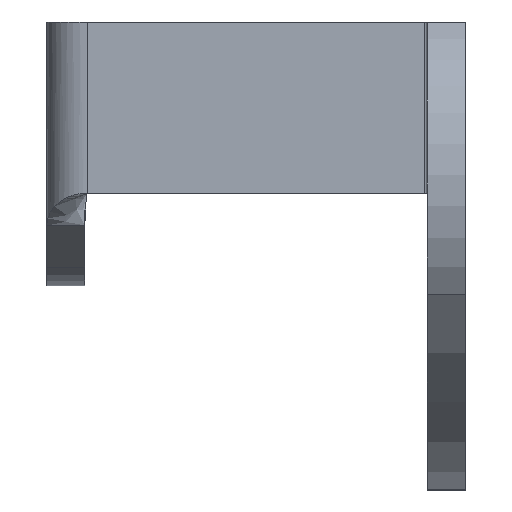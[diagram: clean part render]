
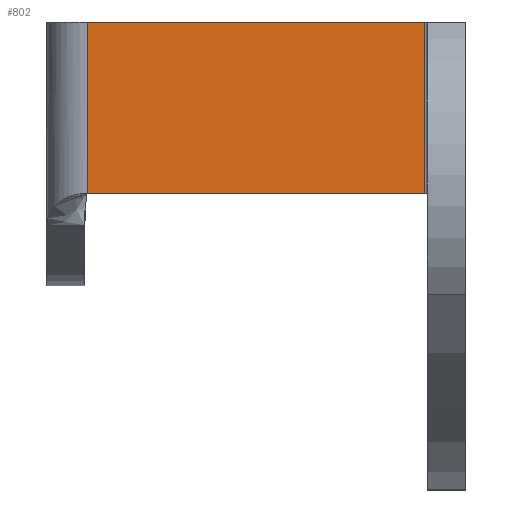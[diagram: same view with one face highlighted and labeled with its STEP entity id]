
A CAD part, left-side view. The second image highlights one B-rep face of the part: STEP entity #802.
In plain terms, the highlighted planar face has unit normal (-1, 0, 0).
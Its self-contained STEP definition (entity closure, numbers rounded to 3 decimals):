
#27 = VERTEX_POINT ( 'NONE', #809 ) ;
#49 = EDGE_CURVE ( 'NONE', #751, #866, #685, .T. ) ;
#70 = ORIENTED_EDGE ( 'NONE', *, *, #615, .T. ) ;
#111 = VECTOR ( 'NONE', #613, 1000. ) ;
#112 = LINE ( 'NONE', #233, #111 ) ;
#133 = AXIS2_PLACEMENT_3D ( 'NONE', #1016, #136, #407 ) ;
#136 = DIRECTION ( 'NONE',  ( 1., 0., 0. ) ) ;
#202 = FACE_OUTER_BOUND ( 'NONE', #925, .T. ) ;
#205 = VECTOR ( 'NONE', #697, 1000. ) ;
#206 = LINE ( 'NONE', #584, #205 ) ;
#209 = CARTESIAN_POINT ( 'NONE',  ( -25.5, -0.25, 12. ) ) ;
#233 = CARTESIAN_POINT ( 'NONE',  ( -25.5, -40., 12. ) ) ;
#294 = VECTOR ( 'NONE', #597, 1000. ) ;
#312 = LINE ( 'NONE', #570, #294 ) ;
#407 = DIRECTION ( 'NONE',  ( 0., 1., 0. ) ) ;
#428 = VERTEX_POINT ( 'NONE', #209 ) ;
#570 = CARTESIAN_POINT ( 'NONE',  ( -25.5, -0.25, 30. ) ) ;
#584 = CARTESIAN_POINT ( 'NONE',  ( -25.5, -35.75, 30. ) ) ;
#588 = DIRECTION ( 'NONE',  ( 0., -1., 0. ) ) ;
#597 = DIRECTION ( 'NONE',  ( 0., 0., -1. ) ) ;
#613 = DIRECTION ( 'NONE',  ( 0., 1., 0. ) ) ;
#615 = EDGE_CURVE ( 'NONE', #751, #428, #312, .T. ) ;
#673 = VECTOR ( 'NONE', #588, 1000. ) ;
#685 = LINE ( 'NONE', #1031, #673 ) ;
#697 = DIRECTION ( 'NONE',  ( 0., 0., -1. ) ) ;
#717 = ORIENTED_EDGE ( 'NONE', *, *, #790, .F. ) ;
#751 = VERTEX_POINT ( 'NONE', #879 ) ;
#790 = EDGE_CURVE ( 'NONE', #866, #27, #206, .T. ) ;
#802 = ADVANCED_FACE ( 'NONE', ( #202 ), #853, .F. ) ;
#809 = CARTESIAN_POINT ( 'NONE',  ( -25.5, -35.75, 12. ) ) ;
#823 = ORIENTED_EDGE ( 'NONE', *, *, #49, .F. ) ;
#853 = PLANE ( 'NONE',  #133 ) ;
#866 = VERTEX_POINT ( 'NONE', #1025 ) ;
#879 = CARTESIAN_POINT ( 'NONE',  ( -25.5, -0.25, 30. ) ) ;
#925 = EDGE_LOOP ( 'NONE', ( #942, #717, #823, #70 ) ) ;
#942 = ORIENTED_EDGE ( 'NONE', *, *, #987, .F. ) ;
#987 = EDGE_CURVE ( 'NONE', #27, #428, #112, .T. ) ;
#1016 = CARTESIAN_POINT ( 'NONE',  ( -25.5, 0., 30. ) ) ;
#1025 = CARTESIAN_POINT ( 'NONE',  ( -25.5, -35.75, 30. ) ) ;
#1031 = CARTESIAN_POINT ( 'NONE',  ( -25.5, 0., 30. ) ) ;
